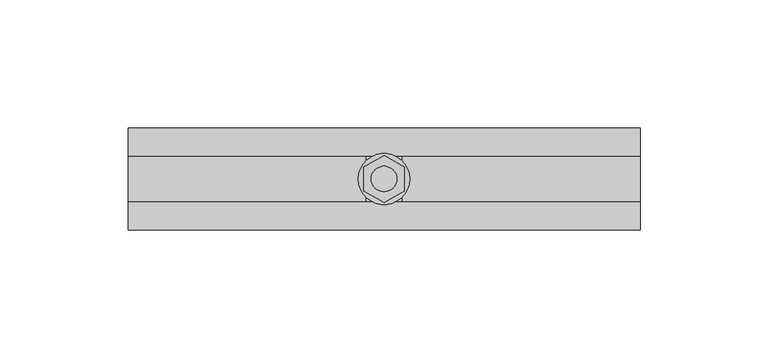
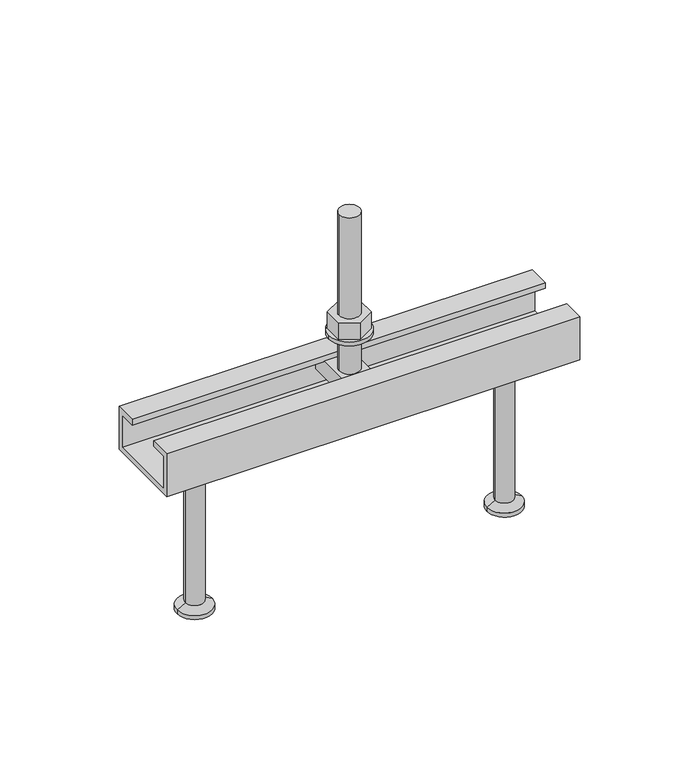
"""IFC4 building model written with IfcOpenShell, lengths in millimetres: fastener geometry, JTA-W JORDAHL® AnchorChannels : JTA-W L=200 mm."""

from ifc_helpers import new_model, si_unit, point, frame, frame_2d, origin, place, context, project, spatial, polyline, circle_curve, trimmed, segment, composite_curve, outline, extrude, source, transform, mapped, element, save
from ifc_brep_helpers import plane_surface, cylinder_surface, revolved_surface, advanced_brep


def fastener_12655446(model_context):
    return source(origin(), model_context, "Body", "SolidModel", [
        extrude(outline(polyline([(100.0, 9.2376043), (108.0, 4.6188022), (108.0, -4.6188022), (100.0, -9.2376043), (92.0, -4.6188022), (92.0, 4.6188022), (100.0, 9.2376043)]), holes=[composite_curve([segment(trimmed(circle_curve(frame_2d((100.0, 0.0)), 5.0), [point((95.0, 0.0))], [point((105.0, 0.0))], True, "CARTESIAN"), True, "CONTINUOUS"), segment(trimmed(circle_curve(frame_2d((100.0, 0.0)), 5.0), [point((105.0, 0.0))], [point((95.0, 0.0))], True, "CARTESIAN"), True, "CONTINUOUS")], self_intersect=False)]), frame((0.0, 0.0, 17.0), z_axis=(0.0, 0.0, 1.0), x_axis=(1.0, 0.0, 0.0)), (0.0, 0.0, 1.0), 8.4),
        extrude(outline(composite_curve([segment(trimmed(circle_curve(frame_2d((100.0, 0.0)), 10.0), [point((90.0, 0.0))], [point((110.0, 0.0))], False, "CARTESIAN"), True, "CONTINUOUS"), segment(trimmed(circle_curve(frame_2d((100.0, 0.0)), 10.0), [point((110.0, 0.0))], [point((90.0, 0.0))], False, "CARTESIAN"), True, "CONTINUOUS")], self_intersect=False), holes=[composite_curve([segment(trimmed(circle_curve(frame_2d((100.0, 0.0)), 5.25), [point((94.75, 0.0))], [point((105.25, 0.0))], True, "CARTESIAN"), True, "CONTINUOUS"), segment(trimmed(circle_curve(frame_2d((100.0, 0.0)), 5.25), [point((105.25, 0.0))], [point((94.75, 0.0))], True, "CARTESIAN"), True, "CONTINUOUS")], self_intersect=False)]), frame((0.0, 0.0, 15.0), z_axis=(0.0, 0.0, 1.0), x_axis=(1.0, 0.0, 0.0)), (0.0, 0.0, 1.0), 2.0),
        advanced_brep(
        [(107.0, 16.25, -3.0), (107.0, -16.25, -3.0), (107.0, -16.25, -11.0), (107.0, 16.25, -11.0), (93.0, 16.25, -3.0), (93.0, 16.25, -11.0), (93.0, -16.25, -11.0), (93.0, -16.25, -3.0), (105.0, 0.0, -3.0), (95.0, 0.0, -3.0), (95.0, 0.0, 77.0), (105.0, 0.0, 77.0)],
        [
            (0, 1),
            (1, 2),
            (2, 3),
            (3, 0),
            (4, 5),
            (5, 6),
            (6, 7),
            (7, 4),
            (0, 4),
            (7, 1),
            (8, 9, circle_curve(frame((100.0, 0.0, -3.0), z_axis=(0.0, 0.0, -1.0), x_axis=(1.0, 0.0, 0.0)), 5.0)),
            (9, 8, circle_curve(frame((100.0, 0.0, -3.0), z_axis=(0.0, 0.0, -1.0), x_axis=(1.0, 0.0, 0.0)), 5.0)),
            (6, 2),
            (5, 3),
            (10, 11, circle_curve(frame((100.0, 0.0, 77.0), z_axis=(0.0, 0.0, 1.0), x_axis=(1.0, 0.0, 0.0)), 5.0)),
            (11, 10, circle_curve(frame((100.0, 0.0, 77.0), z_axis=(0.0, 0.0, 1.0), x_axis=(1.0, 0.0, 0.0)), 5.0)),
            (10, 9),
            (8, 11),
        ],
        [
            plane_surface(frame((107.0, -16.25, -3.0), z_axis=(1.0, 0.0, 0.0), x_axis=(0.0, -1.0, 0.0))),
            plane_surface(frame((93.0, -16.25, -3.0), z_axis=(-1.0, 0.0, 0.0), x_axis=(0.0, 1.0, 0.0))),
            plane_surface(frame((107.0, 16.25, -3.0), z_axis=(0.0, 0.0, 1.0), x_axis=(-1.0, 0.0, 0.0))),
            plane_surface(frame((107.0, -16.25, -3.0), z_axis=(0.0, -1.0, 0.0), x_axis=(-1.0, 0.0, 0.0))),
            plane_surface(frame((107.0, -16.25, -11.0), z_axis=(0.0, 0.0, -1.0), x_axis=(-1.0, 0.0, 0.0))),
            plane_surface(frame((107.0, 16.25, -11.0), z_axis=(0.0, 1.0, 0.0), x_axis=(-1.0, 0.0, 0.0))),
            plane_surface(frame((105.0, 0.0, 77.0), z_axis=(0.0, 0.0, 1.0), x_axis=(0.0, 1.0, 0.0))),
            cylinder_surface(frame((100.0, 0.0, -3.0), z_axis=(0.0, 0.0, 1.0), x_axis=(1.0, 0.0, 0.0)), 5.0),
        ],
        [
            (0, [[1, 2, 3, 4]]),
            (1, [[5, 6, 7, 8]]),
            (2, [[-1, 9, -8, 10], [11, 12]]),
            (3, [[-2, -10, -7, 13]]),
            (4, [[-3, -13, -6, 14]]),
            (5, [[-4, -14, -5, -9]]),
            (6, [[15, 16]]),
            (7, [[-15, 17, -11, 18]]),
            (7, [[-16, -18, -12, -17]]),
        ],
    ),
        advanced_brep(
        [(175.0, 0.0, -22.0), (188.5, 0.0, -22.0), (161.5, 0.0, -22.0), (166.5, 0.0, -100.0), (183.5, 0.0, -100.0), (175.0, 0.0, -100.0), (166.5, 0.0, -98.0), (183.5, 0.0, -98.0), (170.5, 0.0, -95.6905989), (179.5, 0.0, -95.6905989), (170.5, 0.0, -24.5), (179.5, 0.0, -24.5)],
        [
            (0, 1),
            (1, 2, circle_curve(frame((175.0, 0.0, -22.0), z_axis=(0.0, 0.0, 1.0), x_axis=(1.0, 0.0, 0.0)), 13.5)),
            (2, 0),
            (2, 1, circle_curve(frame((175.0, 0.0, -22.0), z_axis=(0.0, 0.0, 1.0), x_axis=(1.0, 0.0, 0.0)), 13.5)),
            (3, 4, circle_curve(frame((175.0, 0.0, -100.0), z_axis=(0.0, 0.0, -1.0), x_axis=(1.0, 0.0, 0.0)), 8.5)),
            (4, 5),
            (5, 3),
            (4, 3, circle_curve(frame((175.0, 0.0, -100.0), z_axis=(0.0, 0.0, -1.0), x_axis=(1.0, 0.0, 0.0)), 8.5)),
            (6, 7, circle_curve(frame((175.0, 0.0, -98.0), z_axis=(0.0, 0.0, -1.0), x_axis=(1.0, 0.0, 0.0)), 8.5)),
            (7, 4),
            (3, 6),
            (7, 6, circle_curve(frame((175.0, 0.0, -98.0), z_axis=(0.0, 0.0, -1.0), x_axis=(1.0, 0.0, 0.0)), 8.5)),
            (8, 9, circle_curve(frame((175.0, 0.0, -95.6905989), z_axis=(0.0, 0.0, -1.0), x_axis=(1.0, 0.0, 0.0)), 4.5)),
            (9, 7),
            (6, 8),
            (9, 8, circle_curve(frame((175.0, 0.0, -95.6905989), z_axis=(0.0, 0.0, -1.0), x_axis=(1.0, 0.0, 0.0)), 4.5)),
            (10, 11, circle_curve(frame((175.0, 0.0, -24.5), z_axis=(0.0, 0.0, -1.0), x_axis=(1.0, 0.0, 0.0)), 4.5)),
            (11, 9),
            (8, 10),
            (11, 10, circle_curve(frame((175.0, 0.0, -24.5), z_axis=(0.0, 0.0, -1.0), x_axis=(1.0, 0.0, 0.0)), 4.5)),
            (1, 11),
            (10, 2),
        ],
        [
            plane_surface(frame((175.0, 0.0, -22.0), z_axis=(0.0, 0.0, 1.0), x_axis=(1.0, 0.0, 0.0))),
            plane_surface(frame((175.0, 0.0, -100.0), z_axis=(0.0, 0.0, -1.0), x_axis=(1.0, 0.0, 0.0))),
            cylinder_surface(frame((175.0, 0.0, 2292.3150031), z_axis=(0.0, 0.0, 1.0), x_axis=(1.0, 0.0, 0.0)), 8.5),
            revolved_surface(polyline([(183.5, 0.0, -98.0), (179.5, 0.0, -95.6905989)]), (175.0, 0.0, 2292.3150031), (0.0, 0.0, 1.0)),
            cylinder_surface(frame((175.0, 0.0, 2292.3150031), z_axis=(0.0, 0.0, 1.0), x_axis=(1.0, 0.0, 0.0)), 4.5),
            revolved_surface(polyline([(179.5, 0.0, -24.5), (188.5, 0.0, -22.0)]), (175.0, 0.0, 2292.3150031), (0.0, 0.0, 1.0)),
        ],
        [
            (0, [[1, 2, 3]]),
            (0, [[-3, 4, -1]]),
            (1, [[5, 6, 7]]),
            (1, [[8, -7, -6]]),
            (2, [[9, 10, -5, 11]]),
            (2, [[12, -11, -8, -10]]),
            (3, [[13, 14, -9, 15]]),
            (3, [[16, -15, -12, -14]]),
            (4, [[17, 18, -13, 19]]),
            (4, [[20, -19, -16, -18]]),
            (5, [[-2, 21, -17, 22]]),
            (5, [[-4, -22, -20, -21]]),
        ],
    ),
        advanced_brep(
        [(25.0, 0.0, -22.0), (38.5, 0.0, -22.0), (11.5, 0.0, -22.0), (16.5, 0.0, -100.0), (33.5, 0.0, -100.0), (25.0, 0.0, -100.0), (16.5, 0.0, -98.0), (33.5, 0.0, -98.0), (20.5, 0.0, -95.6905989), (29.5, 0.0, -95.6905989), (20.5, 0.0, -24.5), (29.5, 0.0, -24.5)],
        [
            (0, 1),
            (1, 2, circle_curve(frame((25.0, 0.0, -22.0), z_axis=(0.0, 0.0, 1.0), x_axis=(1.0, 0.0, 0.0)), 13.5)),
            (2, 0),
            (2, 1, circle_curve(frame((25.0, 0.0, -22.0), z_axis=(0.0, 0.0, 1.0), x_axis=(1.0, 0.0, 0.0)), 13.5)),
            (3, 4, circle_curve(frame((25.0, 0.0, -100.0), z_axis=(0.0, 0.0, -1.0), x_axis=(1.0, 0.0, 0.0)), 8.5)),
            (4, 5),
            (5, 3),
            (4, 3, circle_curve(frame((25.0, 0.0, -100.0), z_axis=(0.0, 0.0, -1.0), x_axis=(1.0, 0.0, 0.0)), 8.5)),
            (6, 7, circle_curve(frame((25.0, 0.0, -98.0), z_axis=(0.0, 0.0, -1.0), x_axis=(1.0, 0.0, 0.0)), 8.5)),
            (7, 4),
            (3, 6),
            (7, 6, circle_curve(frame((25.0, 0.0, -98.0), z_axis=(0.0, 0.0, -1.0), x_axis=(1.0, 0.0, 0.0)), 8.5)),
            (8, 9, circle_curve(frame((25.0, 0.0, -95.6905989), z_axis=(0.0, 0.0, -1.0), x_axis=(1.0, 0.0, 0.0)), 4.5)),
            (9, 7),
            (6, 8),
            (9, 8, circle_curve(frame((25.0, 0.0, -95.6905989), z_axis=(0.0, 0.0, -1.0), x_axis=(1.0, 0.0, 0.0)), 4.5)),
            (10, 11, circle_curve(frame((25.0, 0.0, -24.5), z_axis=(0.0, 0.0, -1.0), x_axis=(1.0, 0.0, 0.0)), 4.5)),
            (11, 9),
            (8, 10),
            (11, 10, circle_curve(frame((25.0, 0.0, -24.5), z_axis=(0.0, 0.0, -1.0), x_axis=(1.0, 0.0, 0.0)), 4.5)),
            (1, 11),
            (10, 2),
        ],
        [
            plane_surface(frame((25.0, 0.0, -22.0), z_axis=(0.0, 0.0, 1.0), x_axis=(1.0, 0.0, 0.0))),
            plane_surface(frame((25.0, 0.0, -100.0), z_axis=(0.0, 0.0, -1.0), x_axis=(1.0, 0.0, 0.0))),
            cylinder_surface(frame((25.0, 0.0, 2292.3150031), z_axis=(0.0, 0.0, 1.0), x_axis=(1.0, 0.0, 0.0)), 8.5),
            revolved_surface(polyline([(33.5, 0.0, -98.0), (29.5, 0.0, -95.6905989)]), (25.0, 0.0, 2292.3150031), (0.0, 0.0, 1.0)),
            cylinder_surface(frame((25.0, 0.0, 2292.3150031), z_axis=(0.0, 0.0, 1.0), x_axis=(1.0, 0.0, 0.0)), 4.5),
            revolved_surface(polyline([(29.5, 0.0, -24.5), (38.5, 0.0, -22.0)]), (25.0, 0.0, 2292.3150031), (0.0, 0.0, 1.0)),
        ],
        [
            (0, [[1, 2, 3]]),
            (0, [[-3, 4, -1]]),
            (1, [[5, 6, 7]]),
            (1, [[8, -7, -6]]),
            (2, [[9, 10, -5, 11]]),
            (2, [[12, -11, -8, -10]]),
            (3, [[13, 14, -9, 15]]),
            (3, [[16, -15, -12, -14]]),
            (4, [[17, 18, -13, 19]]),
            (4, [[20, -19, -16, -18]]),
            (5, [[-2, 21, -17, 22]]),
            (5, [[-4, -22, -20, -21]]),
        ],
    ),
        extrude(outline(polyline([(20.0, 0.0), (20.0, -22.0), (-20.0, -22.0), (-20.0, 0.0), (-9.0, 0.0), (-9.0, -3.0), (-17.5, -3.0), (-17.5, -19.5), (17.5, -19.5), (17.5, -3.0), (9.0, -3.0), (9.0, 0.0), (20.0, 0.0)])), frame((0.0, 0.0, 0.0), z_axis=(1.0, 0.0, 0.0), x_axis=(0.0, 1.0, 0.0)), (0.0, 0.0, 1.0), 200.0),
    ])


if __name__ == "__main__":
    model = new_model("IFC4")
    model_context = context("Model", 3, world=origin())
    ifc_project = project(units=[si_unit("LENGTHUNIT", "METRE", prefix="MILLI")], contexts=[model_context])
    site = spatial("IfcSite", under=ifc_project)
    building = spatial("IfcBuilding", under=site)
    placement = place(None, origin())
    fastener_shape = fastener_12655446(model_context)
    element("IfcFastener", 1, ObjectType="JTA-W JORDAHL® AnchorChannels : JTA-W L=200 mm", at=placement, inside=building, context=model_context, shape_type="MappedRepresentation", body=[
        mapped(fastener_shape, transform((0.0, 0.0, 0.0), x_axis=(1.0, 0.0, 0.0), y_axis=(0.0, 1.0, 0.0), z_axis=(0.0, 0.0, 1.0))),
    ])
    save(model, "model.ifc")
